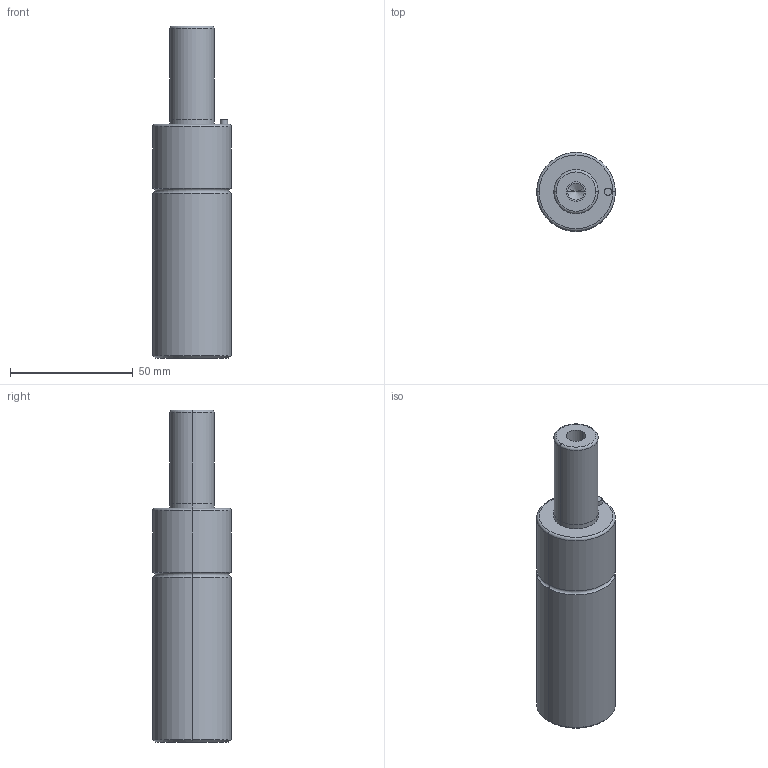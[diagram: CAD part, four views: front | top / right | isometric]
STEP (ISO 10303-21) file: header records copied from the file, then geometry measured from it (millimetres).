
FILE_DESCRIPTION(/* description */ (''),/* implementation_level */ '2;1');
FILE_NAME(/* name */ '3d_gsm32-38_03927_r00.stp',/* time_stamp */ '2011-01-10T14:15:16+09:00',/* author */ ('MISUMI'),/* organization */ (''),/* preprocessor_version */ 'ST-DEVELOPER v11',/* originating_system */ 'UGS - NX 5.0',/* authorisation */ '');
FILE_SCHEMA (('CONFIG_CONTROL_DESIGN'));
Length unit declared in the file: millimetre
Products named in the file (1): 3d_gsm32-38_03927_r00
Bounding box: 32 x 32 x 135 mm (x, y, z)
Volume: 84953 mm3; surface area: 14278.4 mm2
Topology: 1 solids, 1 shells, 50 faces, 106 edges, 60 vertices
Faces by surface type: cylinder 26, cone 10, plane 8, torus 6
Entity records: 1382 total; most frequent: DIRECTION 262, CARTESIAN_POINT 209, ORIENTED_EDGE 196, AXIS2_PLACEMENT_3D 113, EDGE_CURVE 98, CIRCLE 62, EDGE_LOOP 60, VERTEX_POINT 60
